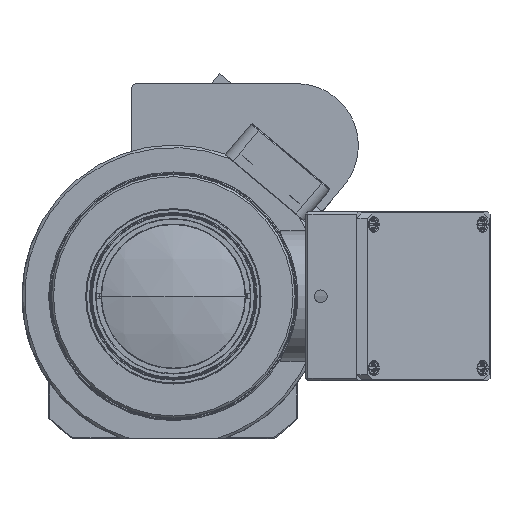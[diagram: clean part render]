
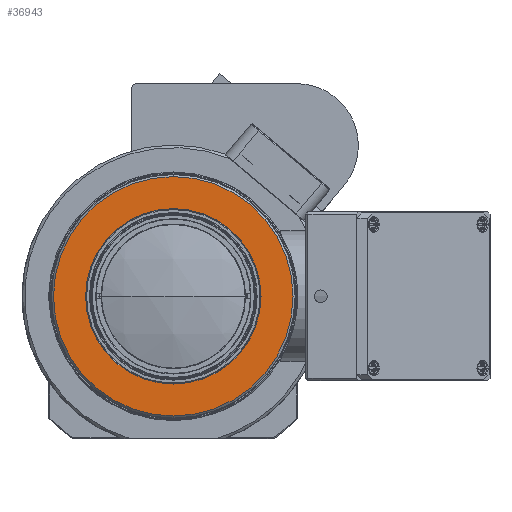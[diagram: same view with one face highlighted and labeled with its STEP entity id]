
A CAD part, front view. The second image highlights one B-rep face of the part: STEP entity #36943.
In plain terms, the highlighted planar face has unit normal (0, -1, 0).
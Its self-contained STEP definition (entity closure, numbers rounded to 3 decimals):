
#2148 = CARTESIAN_POINT ( 'NONE',  ( 0., 55.92, 0. ) ) ;
#2306 = DIRECTION ( 'NONE',  ( 0., -1., 0. ) ) ;
#3324 = CIRCLE ( 'NONE', #27811, 23.35 ) ;
#3541 = EDGE_CURVE ( 'NONE', #46209, #37990, #45706, .T. ) ;
#3962 = DIRECTION ( 'NONE',  ( 0., -1., 0. ) ) ;
#5252 = CIRCLE ( 'NONE', #30528, 17.1 ) ;
#5717 = EDGE_LOOP ( 'NONE', ( #12980, #19784 ) ) ;
#5983 = ORIENTED_EDGE ( 'NONE', *, *, #3541, .T. ) ;
#7257 = DIRECTION ( 'NONE',  ( 0., 0., -1. ) ) ;
#8587 = VERTEX_POINT ( 'NONE', #11948 ) ;
#9011 = AXIS2_PLACEMENT_3D ( 'NONE', #12816, #38019, #20022 ) ;
#9203 = ORIENTED_EDGE ( 'NONE', *, *, #44841, .T. ) ;
#11948 = CARTESIAN_POINT ( 'NONE',  ( 0., 55.92, -17.1 ) ) ;
#12816 = CARTESIAN_POINT ( 'NONE',  ( 0., 55.92, 0. ) ) ;
#12980 = ORIENTED_EDGE ( 'NONE', *, *, #43535, .T. ) ;
#14846 = CARTESIAN_POINT ( 'NONE',  ( 0., 55.92, 0. ) ) ;
#17491 = CARTESIAN_POINT ( 'NONE',  ( 0., 55.92, 23.35 ) ) ;
#17847 = AXIS2_PLACEMENT_3D ( 'NONE', #14846, #18433, #43695 ) ;
#17857 = DIRECTION ( 'NONE',  ( 0., 0., -1. ) ) ;
#18433 = DIRECTION ( 'NONE',  ( 0., 1., 0. ) ) ;
#19784 = ORIENTED_EDGE ( 'NONE', *, *, #26089, .T. ) ;
#20022 = DIRECTION ( 'NONE',  ( 0., 0., -1. ) ) ;
#20101 = CARTESIAN_POINT ( 'NONE',  ( 0., 55.92, -23.35 ) ) ;
#21914 = CARTESIAN_POINT ( 'NONE',  ( 23.85, 55.92, 0. ) ) ;
#26089 = EDGE_CURVE ( 'NONE', #33259, #8587, #5252, .T. ) ;
#26674 = AXIS2_PLACEMENT_3D ( 'NONE', #21914, #3962, #17857 ) ;
#27217 = EDGE_LOOP ( 'NONE', ( #9203, #5983 ) ) ;
#27324 = DIRECTION ( 'NONE',  ( 0., 0., -1. ) ) ;
#27811 = AXIS2_PLACEMENT_3D ( 'NONE', #2148, #2306, #27324 ) ;
#28547 = PLANE ( 'NONE',  #26674 ) ;
#29346 = CARTESIAN_POINT ( 'NONE',  ( 0., 55.92, 17.1 ) ) ;
#30528 = AXIS2_PLACEMENT_3D ( 'NONE', #36390, #43686, #7257 ) ;
#33259 = VERTEX_POINT ( 'NONE', #29346 ) ;
#36390 = CARTESIAN_POINT ( 'NONE',  ( 0., 55.92, 0. ) ) ;
#36943 = ADVANCED_FACE ( 'NONE', ( #46695, #43860 ), #28547, .T. ) ;
#37990 = VERTEX_POINT ( 'NONE', #17491 ) ;
#38019 = DIRECTION ( 'NONE',  ( 0., -1., 0. ) ) ;
#40088 = CIRCLE ( 'NONE', #17847, 17.1 ) ;
#43535 = EDGE_CURVE ( 'NONE', #8587, #33259, #40088, .T. ) ;
#43686 = DIRECTION ( 'NONE',  ( 0., 1., 0. ) ) ;
#43695 = DIRECTION ( 'NONE',  ( 0., 0., -1. ) ) ;
#43860 = FACE_BOUND ( 'NONE', #5717, .T. ) ;
#44841 = EDGE_CURVE ( 'NONE', #37990, #46209, #3324, .T. ) ;
#45706 = CIRCLE ( 'NONE', #9011, 23.35 ) ;
#46209 = VERTEX_POINT ( 'NONE', #20101 ) ;
#46695 = FACE_OUTER_BOUND ( 'NONE', #27217, .T. ) ;
